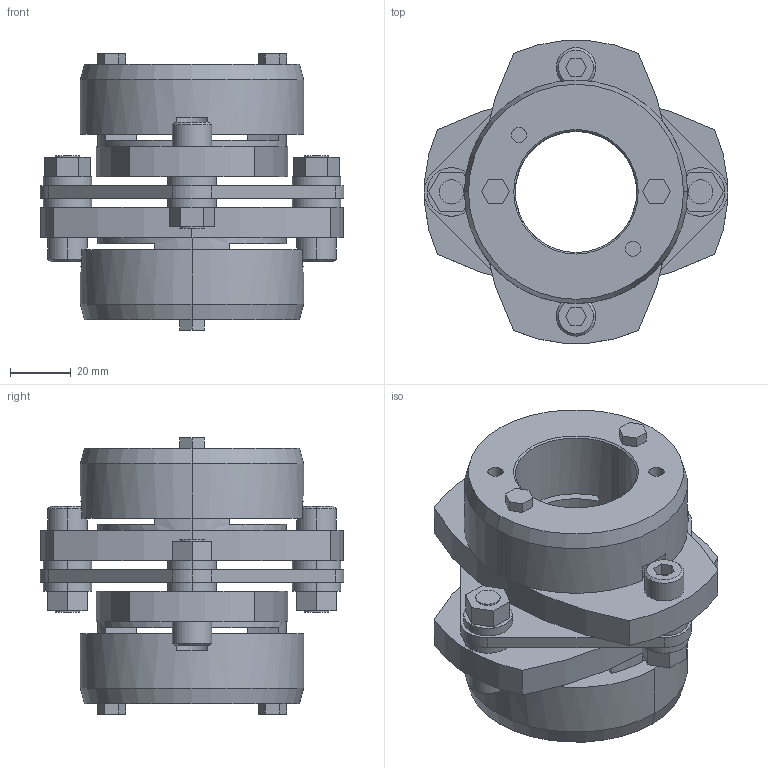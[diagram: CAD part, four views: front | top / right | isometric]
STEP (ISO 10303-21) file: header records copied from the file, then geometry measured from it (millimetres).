
FILE_DESCRIPTION((''),'2;1');
FILE_NAME('LCS-100T7-40×40.stp','2011-09-09T08:28:57',(''),(''),'AutoCAD STEP 2000i','AutoCAD 2000i',', , ');
FILE_SCHEMA(('CONFIG_CONTROL_DESIGN'));
Length unit declared in the file: millimetre
Products named in the file (10): LCS-100T7-38×38; 忣兜1; LC100T7-T038-1; LC100T7-T038; LC100T7-T035; LC100T7-T030; LC100T7-T025; LC100T7-T022-1; LC100T7-T022; LCS100-ITA
Assembly tree (9 placements, depth 2):
  LCS-100T7-38×38
    忣兜1
    LC100T7-T038-1
    LC100T7-T038
    LC100T7-T035
    LC100T7-T030
    LC100T7-T025
    LC100T7-T022-1
    LC100T7-T022
    LCS100-ITA
Bounding box: 100 x 99.93 x 91 mm (x, y, z)
Volume: 256090.1 mm3; surface area: 65484.2 mm2
Topology: 1 solids, 1 shells, 226 faces, 556 edges, 364 vertices
Faces by surface type: plane 122, cylinder 84, cone 20
Entity records: 6969 total; most frequent: DIRECTION 1240, CARTESIAN_POINT 1156, ORIENTED_EDGE 1112, EDGE_CURVE 556, AXIS2_PLACEMENT_3D 448, VERTEX_POINT 364, VECTOR 344, LINE 344
